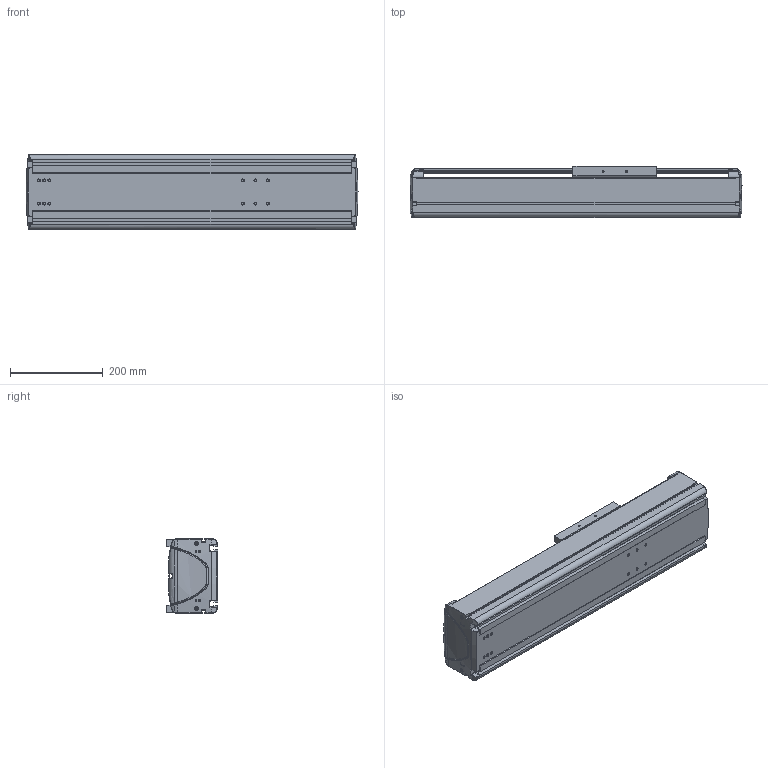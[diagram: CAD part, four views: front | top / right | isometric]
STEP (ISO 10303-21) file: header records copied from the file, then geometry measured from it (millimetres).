
FILE_DESCRIPTION((''),'2;1');
FILE_NAME('BE50G-ST-M_B-30_IGS_PRT','2017-06-18T',(' '),(''),'PRO/ENGINEER BY PARAMETRIC TECHNOLOGY CORPORATION, 2015030','PRO/ENGINEER BY PARAMETRIC TECHNOLOGY CORPORATION, 2015030','');
FILE_SCHEMA(('CONFIG_CONTROL_DESIGN'));
Length unit declared in the file: millimetre
Products named in the file (1): BE50G-ST-M_B-30_IGS_PRT
Bounding box: 714.98 x 110 x 160 mm (x, y, z)
Volume: 3497802.2 mm3; surface area: 1153868 mm2
Topology: 2 solids, 65 shells, 1494 faces, 3870 edges, 2467 vertices
Faces by surface type: cylinder 606, plane 603, bspline 110, torus 87, cone 48, sphere 40
Entity records: 50996 total; most frequent: CARTESIAN_POINT 14763, DIRECTION 7466, ORIENTED_EDGE 7452, EDGE_CURVE 3852, AXIS2_PLACEMENT_3D 2758, VERTEX_POINT 2467, VECTOR 1950, LINE 1950
